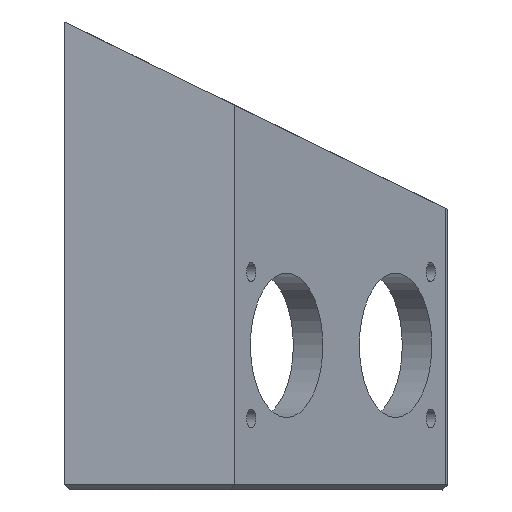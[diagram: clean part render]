
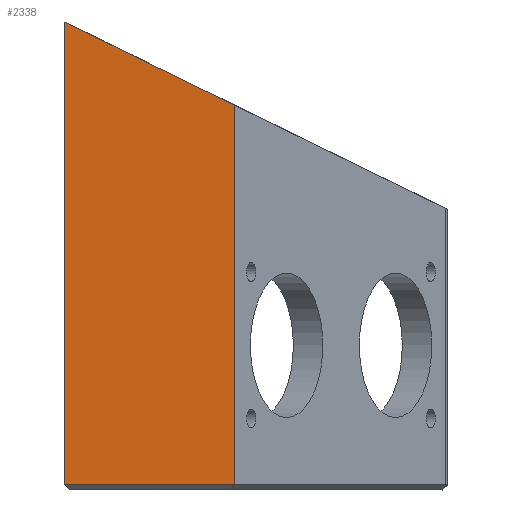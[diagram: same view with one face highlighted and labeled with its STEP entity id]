
A CAD part, front view. The second image highlights one B-rep face of the part: STEP entity #2338.
In plain terms, the highlighted planar face has unit normal (0.82, -0.572, 0).
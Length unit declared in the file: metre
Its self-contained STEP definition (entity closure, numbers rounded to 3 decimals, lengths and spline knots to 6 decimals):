
#444=ORIENTED_EDGE('',*,*,#1047,.T.);
#445=ORIENTED_EDGE('',*,*,#908,.T.);
#446=ORIENTED_EDGE('',*,*,#998,.F.);
#447=ORIENTED_EDGE('',*,*,#1055,.F.);
#908=EDGE_CURVE('',#1248,#1247,#1462,.T.);
#998=EDGE_CURVE('',#1323,#1247,#1510,.F.);
#1047=EDGE_CURVE('',#1359,#1248,#1531,.F.);
#1055=EDGE_CURVE('',#1359,#1323,#1533,.T.);
#1247=VERTEX_POINT('',#3428);
#1248=VERTEX_POINT('',#3430);
#1323=VERTEX_POINT('',#3621);
#1359=VERTEX_POINT('',#3731);
#1462=LINE('',#3429,#1672);
#1510=LINE('',#3622,#1720);
#1531=LINE('',#3730,#1741);
#1533=LINE('',#3747,#1743);
#1672=VECTOR('',#2726,1.);
#1720=VECTOR('',#2872,1.);
#1741=VECTOR('',#2961,1.);
#1743=VECTOR('',#2979,1.);
#1945=EDGE_LOOP('',(#444,#445,#446,#447));
#2129=FACE_BOUND('',#1945,.T.);
#2253=PLANE('',#2550);
#2338=ADVANCED_FACE('',(#2129),#2253,.T.);
#2550=AXIS2_PLACEMENT_3D('',#3746,#2977,#2978);
#2726=DIRECTION('',(-0.551,-0.79,0.269));
#2872=DIRECTION('',(0.,0.,-1.));
#2961=DIRECTION('',(0.,0.,-1.));
#2977=DIRECTION('',(0.82,-0.572,0.));
#2978=DIRECTION('',(-0.572,-0.82,0.));
#2979=DIRECTION('',(-0.572,-0.82,0.));
#3428=CARTESIAN_POINT('',(0.255,-0.097,0.101));
#3429=CARTESIAN_POINT('',(0.275,-0.0683,0.091222));
#3430=CARTESIAN_POINT('',(0.275,-0.0683,0.091222));
#3621=CARTESIAN_POINT('',(0.255,-0.097,0.0466));
#3622=CARTESIAN_POINT('',(0.255,-0.097,0.051));
#3730=CARTESIAN_POINT('',(0.275,-0.0683,0.051));
#3731=CARTESIAN_POINT('',(0.275,-0.0683,0.0466));
#3746=CARTESIAN_POINT('',(0.275,-0.0683,0.051));
#3747=CARTESIAN_POINT('',(0.275,-0.0683,0.0466));
